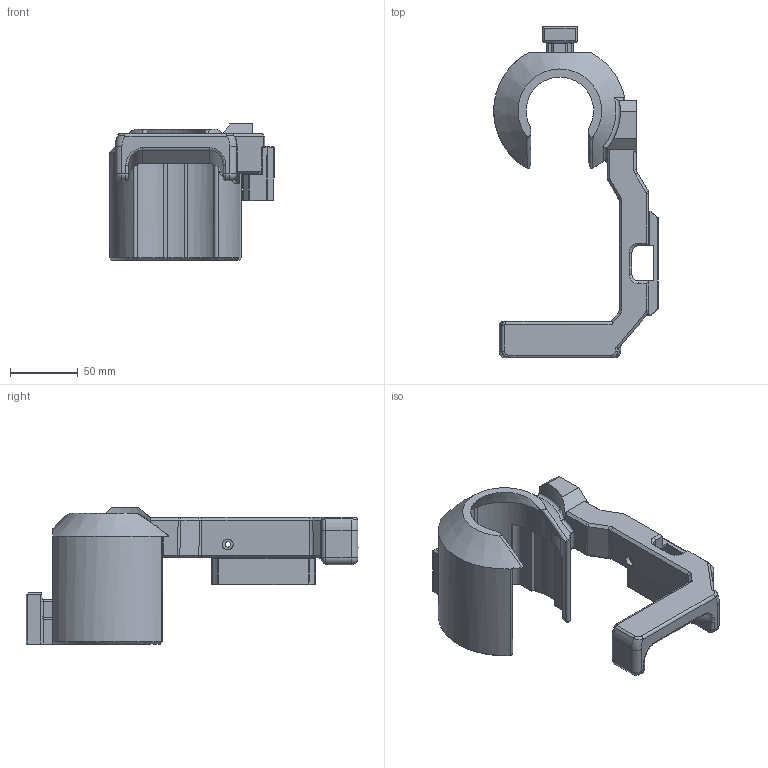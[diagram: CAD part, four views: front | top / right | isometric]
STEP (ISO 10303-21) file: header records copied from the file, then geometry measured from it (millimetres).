
FILE_DESCRIPTION((''),'2;1');
FILE_NAME('FLAMINGO_HOLDER_JUL2025','2026-01-27T11:06:23',('GOS1PG2'),(''),'CREO PARAMETRIC BY PTC INC, 2025123','CREO PARAMETRIC BY PTC INC, 2025123','');
FILE_SCHEMA(('AP242_MANAGED_MODEL_BASED_3D_ENGINEERING_MIM_LF { 1 0 10303 442 1 1 4 }'));
Length unit declared in the file: millimetre
Products named in the file (1): FLAMINGO_HOLDER_JUL2025
Bounding box: 121.86 x 245.9 x 100.75 mm (x, y, z)
Volume: 319638.2 mm3; surface area: 88251.7 mm2
Topology: 1 solids, 1 shells, 477 faces, 1180 edges, 705 vertices
Faces by surface type: plane 172, cylinder 167, bspline 82, torus 28, cone 20, sphere 8
Entity records: 27801 total; most frequent: CARTESIAN_POINT 13524, ORIENTED_EDGE 2356, DIRECTION 1951, PRESENTATION_STYLE_ASSIGNMENT 1185, STYLED_ITEM 1185, CURVE_STYLE 1184, EDGE_CURVE 1178, VERTEX_POINT 705
